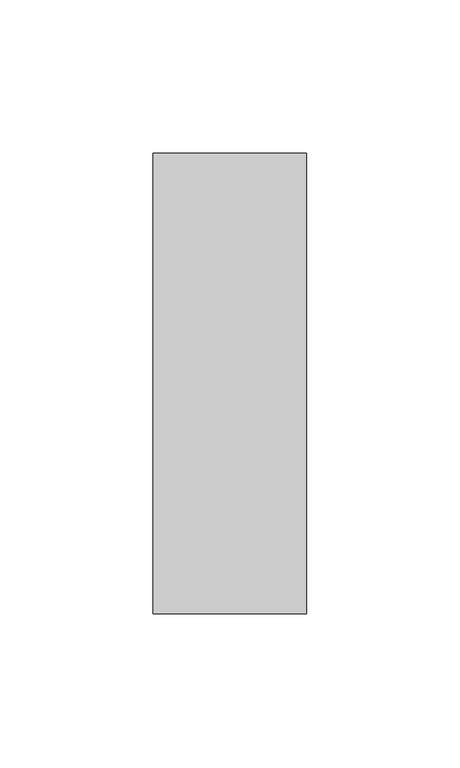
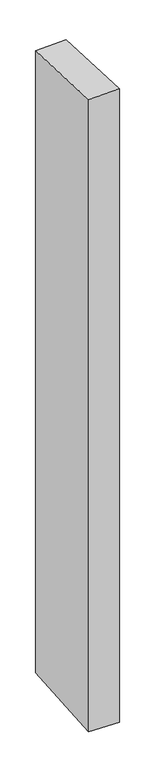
"""IFC4 building model written with IfcOpenShell, lengths in millimetres: member geometry, Прямоугольный импост : 50 x 150 мм."""

from ifc_helpers import new_model, si_unit, origin, place, context, project, spatial, faceted_brep, source, transform, mapped, element, save


def member_df89a618(model_context):
    return source(origin(), model_context, "Body", "Brep", [
        faceted_brep([(-25.0, 75.0, -4.0835183), (25.0, 75.0, -2.8748132), (25.0, 75.0, -1071.944525), (-25.0, 75.0, -1070.8203682), (-25.0, -75.0, 2.8748132), (-25.0, -75.0, -1081.340322), (25.0, -75.0, 4.0835183), (25.0, -75.0, -1082.4644789)], [[[0, 1, 2, 3]], [[4, 0, 3, 5]], [[6, 4, 5, 7]], [[1, 6, 7, 2]], [[1, 0, 4, 6]], [[2, 7, 5, 3]]]),
    ])


if __name__ == "__main__":
    model = new_model("IFC4")
    model_context = context("Model", 3, world=origin())
    ifc_project = project(units=[si_unit("LENGTHUNIT", "METRE", prefix="MILLI")], contexts=[model_context])
    site = spatial("IfcSite", under=ifc_project)
    building = spatial("IfcBuilding", under=site)
    placement = place(None, origin())
    member_shape = member_df89a618(model_context)
    element("IfcMember", 1, ObjectType="Прямоугольный импост : 50 x 150 мм", at=placement, inside=building, context=model_context, shape_type="MappedRepresentation", body=[
        mapped(member_shape, transform((0.0, 0.0, 0.0), x_axis=(1.0, 0.0, 0.0), y_axis=(0.0, 1.0, 0.0), z_axis=(0.0, 0.0, 1.0))),
    ])
    save(model, "model.ifc")
